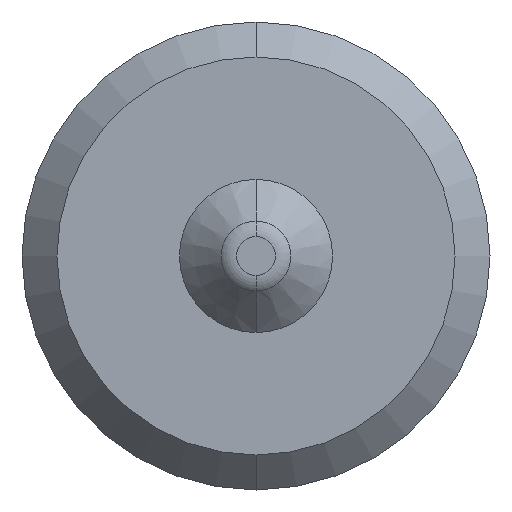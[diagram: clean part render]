
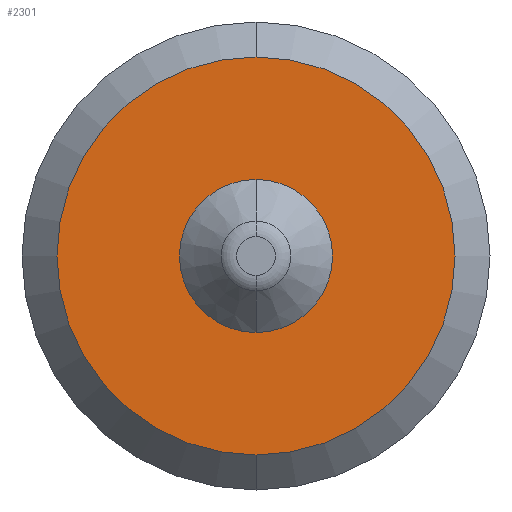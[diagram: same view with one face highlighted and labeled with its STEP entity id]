
A CAD part, front view. The second image highlights one B-rep face of the part: STEP entity #2301.
In plain terms, the highlighted planar face has unit normal (0, -1, 0).
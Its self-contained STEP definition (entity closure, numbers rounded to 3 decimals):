
#86 = CIRCLE ( 'NONE', #1701, 1.75 ) ;
#220 = DIRECTION ( 'NONE',  ( 0., 0., -1. ) ) ;
#363 = FACE_BOUND ( 'NONE', #1491, .T. ) ;
#382 = PLANE ( 'NONE',  #1143 ) ;
#388 = AXIS2_PLACEMENT_3D ( 'NONE', #521, #1069, #1226 ) ;
#469 = CARTESIAN_POINT ( 'NONE',  ( 0., -5., 1.75 ) ) ;
#497 = CIRCLE ( 'NONE', #689, 4.55 ) ;
#511 = CARTESIAN_POINT ( 'NONE',  ( 0., -5., 0. ) ) ;
#521 = CARTESIAN_POINT ( 'NONE',  ( 0., -5., 0. ) ) ;
#554 = FACE_OUTER_BOUND ( 'NONE', #1309, .T. ) ;
#641 = CARTESIAN_POINT ( 'NONE',  ( 0., -5., 0. ) ) ;
#643 = ORIENTED_EDGE ( 'NONE', *, *, #2063, .T. ) ;
#687 = DIRECTION ( 'NONE',  ( 0., 1., 0. ) ) ;
#689 = AXIS2_PLACEMENT_3D ( 'NONE', #1935, #687, #713 ) ;
#697 = VERTEX_POINT ( 'NONE', #1145 ) ;
#713 = DIRECTION ( 'NONE',  ( 0., 0., 1. ) ) ;
#744 = ORIENTED_EDGE ( 'NONE', *, *, #1132, .T. ) ;
#758 = CARTESIAN_POINT ( 'NONE',  ( 0., -5., -1.75 ) ) ;
#836 = CARTESIAN_POINT ( 'NONE',  ( 0., -5., 4.55 ) ) ;
#867 = ORIENTED_EDGE ( 'NONE', *, *, #2176, .F. ) ;
#1058 = DIRECTION ( 'NONE',  ( 0., 0., 1. ) ) ;
#1069 = DIRECTION ( 'NONE',  ( 0., 1., 0. ) ) ;
#1132 = EDGE_CURVE ( 'NONE', #1550, #1693, #2300, .T. ) ;
#1143 = AXIS2_PLACEMENT_3D ( 'NONE', #1837, #1816, #220 ) ;
#1144 = EDGE_CURVE ( 'NONE', #697, #2086, #497, .T. ) ;
#1145 = CARTESIAN_POINT ( 'NONE',  ( 0., -5., -4.55 ) ) ;
#1226 = DIRECTION ( 'NONE',  ( 0., 0., 1. ) ) ;
#1309 = EDGE_LOOP ( 'NONE', ( #867, #1805 ) ) ;
#1491 = EDGE_LOOP ( 'NONE', ( #744, #643 ) ) ;
#1526 = DIRECTION ( 'NONE',  ( 0., 0., 1. ) ) ;
#1549 = AXIS2_PLACEMENT_3D ( 'NONE', #511, #2297, #1058 ) ;
#1550 = VERTEX_POINT ( 'NONE', #469 ) ;
#1693 = VERTEX_POINT ( 'NONE', #758 ) ;
#1701 = AXIS2_PLACEMENT_3D ( 'NONE', #641, #1914, #1526 ) ;
#1805 = ORIENTED_EDGE ( 'NONE', *, *, #1144, .F. ) ;
#1816 = DIRECTION ( 'NONE',  ( 0., -1., 0. ) ) ;
#1837 = CARTESIAN_POINT ( 'NONE',  ( -4.55, -5., 0. ) ) ;
#1914 = DIRECTION ( 'NONE',  ( 0., 1., 0. ) ) ;
#1935 = CARTESIAN_POINT ( 'NONE',  ( 0., -5., 0. ) ) ;
#2063 = EDGE_CURVE ( 'NONE', #1693, #1550, #86, .T. ) ;
#2086 = VERTEX_POINT ( 'NONE', #836 ) ;
#2152 = CIRCLE ( 'NONE', #1549, 4.55 ) ;
#2176 = EDGE_CURVE ( 'NONE', #2086, #697, #2152, .T. ) ;
#2297 = DIRECTION ( 'NONE',  ( 0., 1., 0. ) ) ;
#2300 = CIRCLE ( 'NONE', #388, 1.75 ) ;
#2301 = ADVANCED_FACE ( 'NONE', ( #363, #554 ), #382, .T. ) ;
